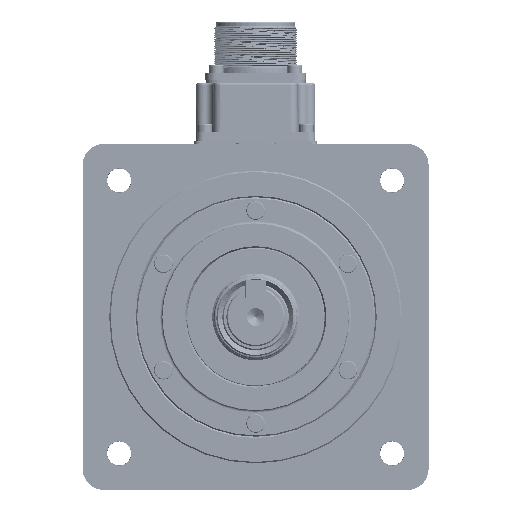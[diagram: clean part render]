
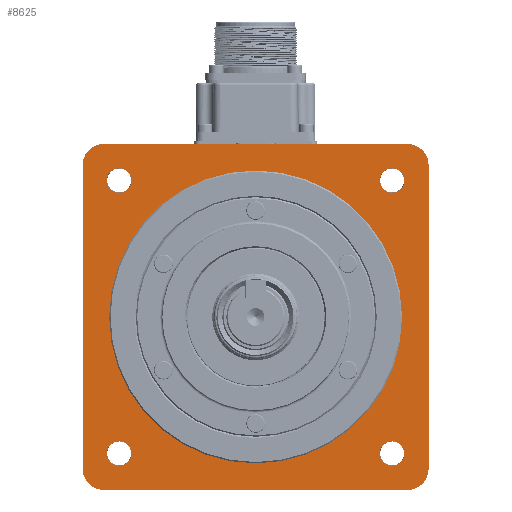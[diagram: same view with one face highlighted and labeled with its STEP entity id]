
A CAD part, front view. The second image highlights one B-rep face of the part: STEP entity #8625.
In plain terms, the highlighted planar face has unit normal (0, -1, 0).
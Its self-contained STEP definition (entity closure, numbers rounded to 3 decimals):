
#8625 = ADVANCED_FACE( '', ( #17452, #17453, #17454, #17455, #17456, #17457 ), #17458, .F. );
#17452 = FACE_BOUND( '', #40768, .T. );
#17453 = FACE_OUTER_BOUND( '', #40769, .T. );
#17454 = FACE_BOUND( '', #40770, .T. );
#17455 = FACE_BOUND( '', #40771, .T. );
#17456 = FACE_BOUND( '', #40772, .T. );
#17457 = FACE_BOUND( '', #40773, .T. );
#17458 = PLANE( '', #40774 );
#40768 = EDGE_LOOP( '', ( #63483 ) );
#40769 = EDGE_LOOP( '', ( #63484, #63485, #63486, #63487, #63488, #63489, #63490, #63491 ) );
#40770 = EDGE_LOOP( '', ( #63492 ) );
#40771 = EDGE_LOOP( '', ( #63493 ) );
#40772 = EDGE_LOOP( '', ( #63494 ) );
#40773 = EDGE_LOOP( '', ( #63495 ) );
#40774 = AXIS2_PLACEMENT_3D( '', #63496, #63497, #63498 );
#63483 = ORIENTED_EDGE( '', *, *, #66802, .F. );
#63484 = ORIENTED_EDGE( '', *, *, #72553, .F. );
#63485 = ORIENTED_EDGE( '', *, *, #72844, .T. );
#63486 = ORIENTED_EDGE( '', *, *, #70469, .F. );
#63487 = ORIENTED_EDGE( '', *, *, #71580, .T. );
#63488 = ORIENTED_EDGE( '', *, *, #72835, .F. );
#63489 = ORIENTED_EDGE( '', *, *, #71994, .T. );
#63490 = ORIENTED_EDGE( '', *, *, #69798, .F. );
#63491 = ORIENTED_EDGE( '', *, *, #72339, .T. );
#63492 = ORIENTED_EDGE( '', *, *, #69392, .F. );
#63493 = ORIENTED_EDGE( '', *, *, #72845, .F. );
#63494 = ORIENTED_EDGE( '', *, *, #72807, .F. );
#63495 = ORIENTED_EDGE( '', *, *, #71092, .F. );
#63496 = CARTESIAN_POINT( '', ( 0., 1.2, 55. ) );
#63497 = DIRECTION( '', ( 0., 1., 0. ) );
#63498 = DIRECTION( '', ( 0., 0., 1. ) );
#66802 = EDGE_CURVE( '', #77278, #77278, #77279, .T. );
#69392 = EDGE_CURVE( '', #81329, #81329, #81330, .F. );
#69798 = EDGE_CURVE( '', #81926, #81928, #81929, .F. );
#70469 = EDGE_CURVE( '', #82843, #82845, #82846, .F. );
#71092 = EDGE_CURVE( '', #83651, #83651, #83652, .F. );
#71580 = EDGE_CURVE( '', #82843, #84247, #84249, .T. );
#71994 = EDGE_CURVE( '', #84744, #81928, #84745, .T. );
#72339 = EDGE_CURVE( '', #81926, #85130, #85132, .T. );
#72553 = EDGE_CURVE( '', #85364, #85130, #85366, .F. );
#72807 = EDGE_CURVE( '', #85626, #85626, #85627, .F. );
#72835 = EDGE_CURVE( '', #84744, #84247, #85657, .F. );
#72844 = EDGE_CURVE( '', #85364, #82845, #85666, .T. );
#72845 = EDGE_CURVE( '', #85667, #85667, #85668, .F. );
#77278 = VERTEX_POINT( '', #95045 );
#77279 = CIRCLE( '', #95046, 55. );
#81329 = VERTEX_POINT( '', #104967 );
#81330 = CIRCLE( '', #104968, 4.6 );
#81926 = VERTEX_POINT( '', #106245 );
#81928 = VERTEX_POINT( '', #106248 );
#81929 = CIRCLE( '', #106249, 8. );
#82843 = VERTEX_POINT( '', #108410 );
#82845 = VERTEX_POINT( '', #108413 );
#82846 = CIRCLE( '', #108414, 8. );
#83651 = VERTEX_POINT( '', #110286 );
#83652 = CIRCLE( '', #110287, 4.6 );
#84247 = VERTEX_POINT( '', #111615 );
#84249 = LINE( '', #111618, #111619 );
#84744 = VERTEX_POINT( '', #112446 );
#84745 = LINE( '', #112447, #112448 );
#85130 = VERTEX_POINT( '', #113124 );
#85132 = LINE( '', #113127, #113128 );
#85364 = VERTEX_POINT( '', #113482 );
#85366 = CIRCLE( '', #113485, 8. );
#85626 = VERTEX_POINT( '', #113952 );
#85627 = CIRCLE( '', #113953, 4.6 );
#85657 = CIRCLE( '', #113997, 8. );
#85666 = LINE( '', #114009, #114010 );
#85667 = VERTEX_POINT( '', #114011 );
#85668 = CIRCLE( '', #114012, 4.6 );
#95045 = CARTESIAN_POINT( '', ( 0., 1.2, -55. ) );
#95046 = AXIS2_PLACEMENT_3D( '', #116823, #116824, #116825 );
#104967 = CARTESIAN_POINT( '', ( -51.265, 1.2, 55.866 ) );
#104968 = AXIS2_PLACEMENT_3D( '', #119527, #119528, #119529 );
#106245 = CARTESIAN_POINT( '', ( 57., 1.2, 65. ) );
#106248 = CARTESIAN_POINT( '', ( 65., 1.2, 57. ) );
#106249 = AXIS2_PLACEMENT_3D( '', #119957, #119958, #119959 );
#108410 = CARTESIAN_POINT( '', ( -57., 1.2, -65. ) );
#108413 = CARTESIAN_POINT( '', ( -65., 1.2, -57. ) );
#108414 = AXIS2_PLACEMENT_3D( '', #120562, #120563, #120564 );
#110286 = CARTESIAN_POINT( '', ( 51.265, 1.2, 55.866 ) );
#110287 = AXIS2_PLACEMENT_3D( '', #121165, #121166, #121167 );
#111615 = CARTESIAN_POINT( '', ( 57., 1.2, -65. ) );
#111618 = CARTESIAN_POINT( '', ( -65., 1.2, -65. ) );
#111619 = VECTOR( '', #121600, 1000. );
#112446 = CARTESIAN_POINT( '', ( 65., 1.2, -57. ) );
#112447 = CARTESIAN_POINT( '', ( 65., 1.2, -65. ) );
#112448 = VECTOR( '', #121962, 1000. );
#113124 = CARTESIAN_POINT( '', ( -57., 1.2, 65. ) );
#113127 = CARTESIAN_POINT( '', ( 65., 1.2, 65. ) );
#113128 = VECTOR( '', #122202, 1000. );
#113482 = CARTESIAN_POINT( '', ( -65., 1.2, 57. ) );
#113485 = AXIS2_PLACEMENT_3D( '', #122350, #122351, #122352 );
#113952 = CARTESIAN_POINT( '', ( 51.265, 1.2, -46.665 ) );
#113953 = AXIS2_PLACEMENT_3D( '', #122444, #122445, #122446 );
#113997 = AXIS2_PLACEMENT_3D( '', #122456, #122457, #122458 );
#114009 = CARTESIAN_POINT( '', ( -65., 1.2, 65. ) );
#114010 = VECTOR( '', #122459, 1000. );
#114011 = CARTESIAN_POINT( '', ( -51.265, 1.2, -46.665 ) );
#114012 = AXIS2_PLACEMENT_3D( '', #122460, #122461, #122462 );
#116823 = CARTESIAN_POINT( '', ( 0., 1.2, 0. ) );
#116824 = DIRECTION( '', ( 0., -1., 0. ) );
#116825 = DIRECTION( '', ( 0., 0., -1. ) );
#119527 = CARTESIAN_POINT( '', ( -51.265, 1.2, 51.265 ) );
#119528 = DIRECTION( '', ( 0., 1., 0. ) );
#119529 = DIRECTION( '', ( 0., 0., 1. ) );
#119957 = CARTESIAN_POINT( '', ( 57., 1.2, 57. ) );
#119958 = DIRECTION( '', ( 0., -1., 0. ) );
#119959 = DIRECTION( '', ( 0., 0., -1. ) );
#120562 = CARTESIAN_POINT( '', ( -57., 1.2, -57. ) );
#120563 = DIRECTION( '', ( 0., -1., 0. ) );
#120564 = DIRECTION( '', ( 0., 0., -1. ) );
#121165 = CARTESIAN_POINT( '', ( 51.265, 1.2, 51.265 ) );
#121166 = DIRECTION( '', ( 0., 1., 0. ) );
#121167 = DIRECTION( '', ( 0., 0., 1. ) );
#121600 = DIRECTION( '', ( 1., 0., 0. ) );
#121962 = DIRECTION( '', ( 0., 0., 1. ) );
#122202 = DIRECTION( '', ( -1., 0., 0. ) );
#122350 = CARTESIAN_POINT( '', ( -57., 1.2, 57. ) );
#122351 = DIRECTION( '', ( 0., -1., 0. ) );
#122352 = DIRECTION( '', ( 0., 0., -1. ) );
#122444 = CARTESIAN_POINT( '', ( 51.265, 1.2, -51.265 ) );
#122445 = DIRECTION( '', ( 0., 1., 0. ) );
#122446 = DIRECTION( '', ( 0., 0., 1. ) );
#122456 = CARTESIAN_POINT( '', ( 57., 1.2, -57. ) );
#122457 = DIRECTION( '', ( 0., -1., 0. ) );
#122458 = DIRECTION( '', ( 0., 0., -1. ) );
#122459 = DIRECTION( '', ( 0., 0., -1. ) );
#122460 = CARTESIAN_POINT( '', ( -51.265, 1.2, -51.265 ) );
#122461 = DIRECTION( '', ( 0., 1., 0. ) );
#122462 = DIRECTION( '', ( 0., 0., 1. ) );
